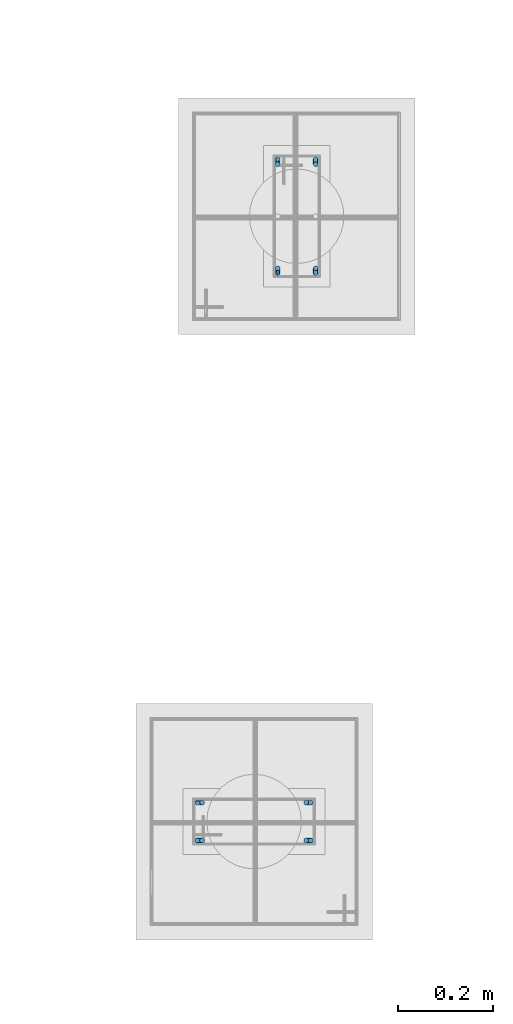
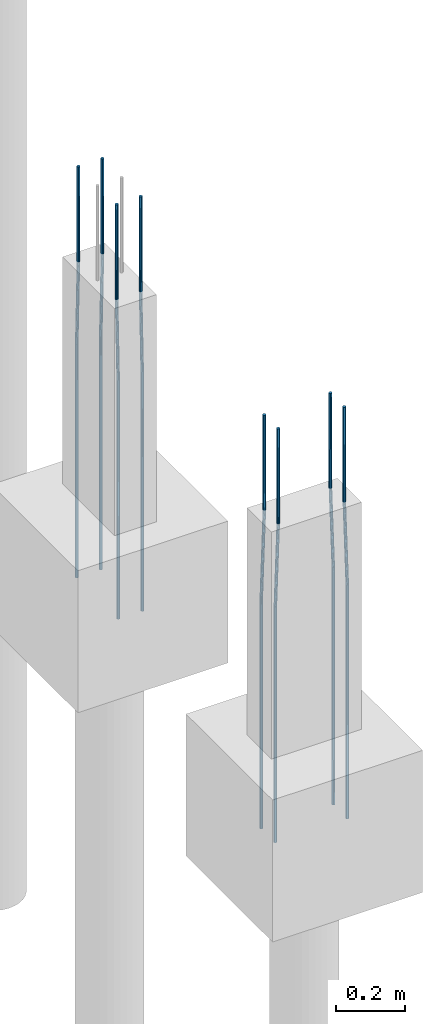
# One storey, part 11 of 119: 8 reinforcing bars.
"""IFC4 building model written with IfcOpenShell, lengths in centimetres."""

from ifc_helpers import new_model, entity, si_unit, derived_unit, frame, origin_with_axes, place, context, project, spatial, element, save


model = new_model("IFC4")

# Units and contexts
model_context = context("Model", 3, precision=1e-05, world=origin_with_axes(), identifier="Body")
ifc_project = project(units=[si_unit("LENGTHUNIT", "METRE", prefix="CENTI"), si_unit("VOLUMEUNIT", "CUBIC_METRE"), si_unit("AREAUNIT", "SQUARE_METRE"), si_unit("POWERUNIT", "WATT"), si_unit("LUMINOUSFLUXUNIT", "LUMEN"), si_unit("ELECTRICCURRENTUNIT", "AMPERE"), si_unit("PRESSUREUNIT", "PASCAL", prefix="KILO"), si_unit("MASSUNIT", "GRAM", prefix="KILO"), si_unit("PLANEANGLEUNIT", "RADIAN"), derived_unit("VOLUMETRICFLOWRATEUNIT", [(si_unit("LENGTHUNIT", "METRE"), 3), (si_unit("TIMEUNIT", "SECOND"), -1)])], contexts=[model_context])

# Site, building, storey
site_placement = place(None, frame((-4000.0, 0.0, 0.0), z_axis=(0.0, 0.0, 1.0), x_axis=(1.0, 0.0, 0.0)))
site = spatial("IfcSite", under=ifc_project, at=site_placement, Name="PADRÃO")
building_placement = place(site_placement, frame((0.0, 0.0, -14.0)))
building = spatial("IfcBuilding", under=site, at=building_placement, Name="CRECHE PRÉ-ESCOLA TIPO 2")
storey_placement = place(building_placement, origin_with_axes())
storey = spatial("IfcBuildingStorey", under=building, at=storey_placement, Name="FUNDAÇÃO", CompositionType="ELEMENT", Elevation=-14.0)

# Reinforcing bars
for number, where, z_axis, x_axis, name in (
    (1, (1114.72, 1419.0, 33.3573001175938), (0.0, 0.0, 1.0), (1.0, 0.0, 0.0), "P102 - Longitudinal"),
    (2, (1122.72, 1419.0, 33.3573001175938), (0.0, 0.0, 1.0), (1.0, 0.0, 0.0), "P102 - Longitudinal"),
):
    element("IfcReinforcingBar", number, at=place(storey_placement, frame(where, z_axis=z_axis, x_axis=x_axis)), inside=storey, Name=name, BarLength=0.0, CrossSectionArea=7.853981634e-05, NominalDiameter=1.0, PredefinedType="MAIN", context=model_context, shape_type="AdvancedSweptSolid", body=[
        entity("IfcSweptDiskSolid", entity("IfcCompositeCurve", [entity("IfcCompositeCurveSegment", "CONTINUOUS", True, entity("IfcPolyline", [entity("IfcCartesianPoint", [0.0, -0.5, -145.357300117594]), entity("IfcCartesianPoint", [0.0, -0.5, -63.3573001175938])])), entity("IfcCompositeCurveSegment", "CONTINUOUS", True, entity("IfcPolyline", [entity("IfcCartesianPoint", [0.0, -0.5, -63.3573001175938]), entity("IfcCartesianPoint", [0.0, 0.5, -33.3573001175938])])), entity("IfcCompositeCurveSegment", "CONTINUOUS", True, entity("IfcPolyline", [entity("IfcCartesianPoint", [0.0, 0.5, -33.3573001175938]), entity("IfcCartesianPoint", [0.0, 0.5, 0.0])]))], False), 0.5),
    ])
for number, where, z_axis, x_axis, name in (
    (3, (1122.72, 1442.0, 33.3573001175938), (0.0, 0.0, 1.0), (1.0, 0.0, 0.0), "P102 - Longitudinal"),
    (4, (1114.72, 1442.0, 33.3573001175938), (0.0, 0.0, 1.0), (1.0, 0.0, 0.0), "P102 - Longitudinal"),
):
    element("IfcReinforcingBar", number, at=place(storey_placement, frame(where, z_axis=z_axis, x_axis=x_axis)), inside=storey, Name=name, BarLength=0.0, CrossSectionArea=7.853981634e-05, NominalDiameter=1.0, PredefinedType="MAIN", context=model_context, shape_type="AdvancedSweptSolid", body=[
        entity("IfcSweptDiskSolid", entity("IfcCompositeCurve", [entity("IfcCompositeCurveSegment", "CONTINUOUS", True, entity("IfcPolyline", [entity("IfcCartesianPoint", [0.0, 0.5, -145.357300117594]), entity("IfcCartesianPoint", [0.0, 0.5, -63.3573001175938])])), entity("IfcCompositeCurveSegment", "CONTINUOUS", True, entity("IfcPolyline", [entity("IfcCartesianPoint", [0.0, 0.5, -63.3573001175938]), entity("IfcCartesianPoint", [0.0, -0.5, -33.3573001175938])])), entity("IfcCompositeCurveSegment", "CONTINUOUS", True, entity("IfcPolyline", [entity("IfcCartesianPoint", [0.0, -0.5, -33.3573001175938]), entity("IfcCartesianPoint", [0.0, -0.5, 0.0])]))], False), 0.5),
    ])
reinforcing_bar_1_placement = place(storey_placement, frame((1121.22, 1306.5, 33.3573001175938), z_axis=(0.0, 0.0, 1.0), x_axis=(1.0, 0.0, 0.0)))
element("IfcReinforcingBar", 5, at=reinforcing_bar_1_placement, inside=storey, Name="P109 - Longitudinal", BarLength=0.0, CrossSectionArea=7.853981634e-05, NominalDiameter=1.0, PredefinedType="MAIN", context=model_context, shape_type="AdvancedSweptSolid", body=[
    entity("IfcSweptDiskSolid", entity("IfcCompositeCurve", [entity("IfcCompositeCurveSegment", "CONTINUOUS", True, entity("IfcPolyline", [entity("IfcCartesianPoint", [0.5, 0.0, -145.357300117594]), entity("IfcCartesianPoint", [0.5, 0.0, -63.3573001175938])])), entity("IfcCompositeCurveSegment", "CONTINUOUS", True, entity("IfcPolyline", [entity("IfcCartesianPoint", [0.5, 0.0, -63.3573001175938]), entity("IfcCartesianPoint", [-0.5, 0.0, -33.3573001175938])])), entity("IfcCompositeCurveSegment", "CONTINUOUS", True, entity("IfcPolyline", [entity("IfcCartesianPoint", [-0.5, 0.0, -33.3573001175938]), entity("IfcCartesianPoint", [-0.5, 0.0, 0.0])]))], False), 0.5),
])
for number, where, z_axis, x_axis, name in (
    (6, (1098.22, 1306.5, 33.3573001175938), (0.0, 0.0, 1.0), (1.0, 0.0, 0.0), "P109 - Longitudinal"),
    (7, (1098.22, 1298.5, 33.3573001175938), (0.0, 0.0, 1.0), (1.0, 0.0, 0.0), "P109 - Longitudinal"),
):
    element("IfcReinforcingBar", number, at=place(storey_placement, frame(where, z_axis=z_axis, x_axis=x_axis)), inside=storey, Name=name, BarLength=0.0, CrossSectionArea=7.853981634e-05, NominalDiameter=1.0, PredefinedType="MAIN", context=model_context, shape_type="AdvancedSweptSolid", body=[
        entity("IfcSweptDiskSolid", entity("IfcCompositeCurve", [entity("IfcCompositeCurveSegment", "CONTINUOUS", True, entity("IfcPolyline", [entity("IfcCartesianPoint", [-0.5, 0.0, -145.357300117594]), entity("IfcCartesianPoint", [-0.5, 0.0, -63.3573001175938])])), entity("IfcCompositeCurveSegment", "CONTINUOUS", True, entity("IfcPolyline", [entity("IfcCartesianPoint", [-0.5, 0.0, -63.3573001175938]), entity("IfcCartesianPoint", [0.5, 0.0, -33.3573001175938])])), entity("IfcCompositeCurveSegment", "CONTINUOUS", True, entity("IfcPolyline", [entity("IfcCartesianPoint", [0.5, 0.0, -33.3573001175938]), entity("IfcCartesianPoint", [0.5, 0.0, 0.0])]))], False), 0.5),
    ])
reinforcing_bar_2_placement = place(storey_placement, frame((1121.22, 1298.5, 33.3573001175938), z_axis=(0.0, 0.0, 1.0), x_axis=(1.0, 0.0, 0.0)))
element("IfcReinforcingBar", 8, at=reinforcing_bar_2_placement, inside=storey, Name="P109 - Longitudinal", BarLength=0.0, CrossSectionArea=7.853981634e-05, NominalDiameter=1.0, PredefinedType="MAIN", context=model_context, shape_type="AdvancedSweptSolid", body=[
    entity("IfcSweptDiskSolid", entity("IfcCompositeCurve", [entity("IfcCompositeCurveSegment", "CONTINUOUS", True, entity("IfcPolyline", [entity("IfcCartesianPoint", [0.5, 0.0, -145.357300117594]), entity("IfcCartesianPoint", [0.5, 0.0, -63.3573001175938])])), entity("IfcCompositeCurveSegment", "CONTINUOUS", True, entity("IfcPolyline", [entity("IfcCartesianPoint", [0.5, 0.0, -63.3573001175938]), entity("IfcCartesianPoint", [-0.5, 0.0, -33.3573001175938])])), entity("IfcCompositeCurveSegment", "CONTINUOUS", True, entity("IfcPolyline", [entity("IfcCartesianPoint", [-0.5, 0.0, -33.3573001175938]), entity("IfcCartesianPoint", [-0.5, 0.0, 0.0])]))], False), 0.5),
])

save(model, "model.ifc")
